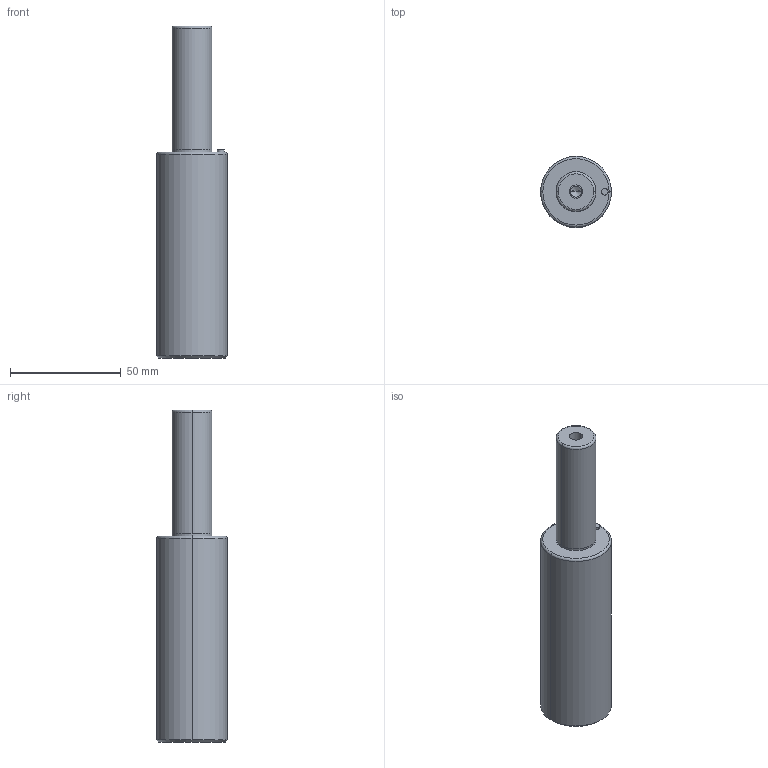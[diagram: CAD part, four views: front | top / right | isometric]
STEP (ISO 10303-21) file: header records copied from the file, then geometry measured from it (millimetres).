
FILE_DESCRIPTION(/* description */ (''),/* implementation_level */ '2;1');
FILE_NAME(/* name */ '3d_gsc32-56_03838_r00.stp',/* time_stamp */ '2011-01-10T14:15:22+09:00',/* author */ ('MISUMI'),/* organization */ (''),/* preprocessor_version */ 'ST-DEVELOPER v11',/* originating_system */ 'UGS - NX 5.0',/* authorisation */ '');
FILE_SCHEMA (('CONFIG_CONTROL_DESIGN'));
Length unit declared in the file: millimetre
Products named in the file (1): 3d_gsc32-56_03838_r00
Bounding box: 32 x 32 x 150 mm (x, y, z)
Volume: 88635.4 mm3; surface area: 14464 mm2
Topology: 1 solids, 1 shells, 32 faces, 66 edges, 38 vertices
Faces by surface type: cylinder 16, cone 6, plane 6, torus 4
Entity records: 912 total; most frequent: DIRECTION 168, CARTESIAN_POINT 133, ORIENTED_EDGE 124, AXIS2_PLACEMENT_3D 73, EDGE_CURVE 62, CIRCLE 40, EDGE_LOOP 38, VERTEX_POINT 38
